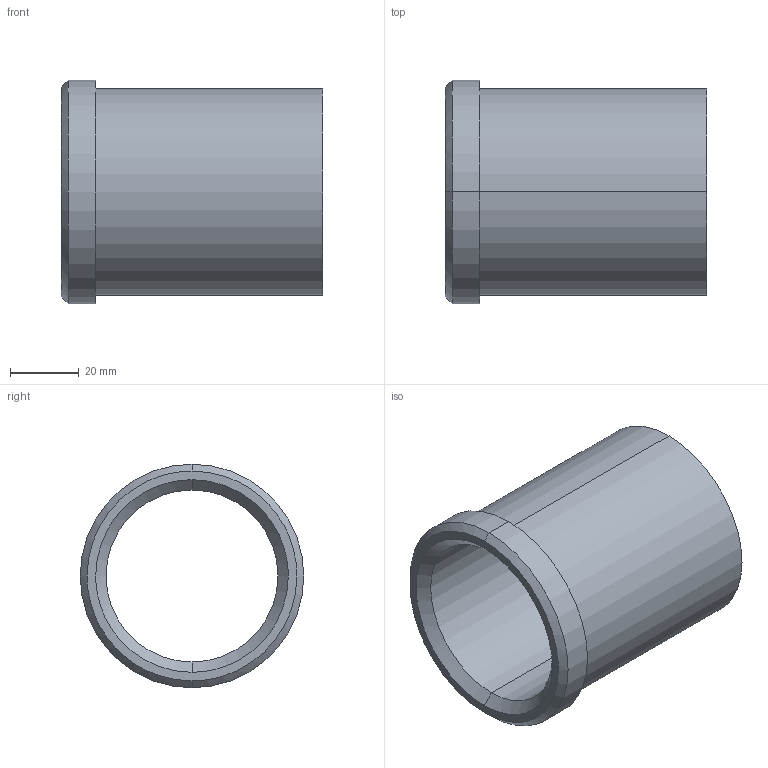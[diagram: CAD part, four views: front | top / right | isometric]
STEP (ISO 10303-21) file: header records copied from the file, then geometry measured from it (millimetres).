
FILE_DESCRIPTION(('CATIA V5 STEP Exchange'),'2;1');
FILE_NAME('C:\Users\Utente\Desktop\IO LAVORO\3D X SITO CF\X SITO\PLASTICA\353\353-50X76.stp','2021-05-14T13:24:16+00:00',('none'),('none'),'CATIA Version 5 Release 20 GA (IN-10)','CATIA V5 STEP AP203','none');
FILE_SCHEMA(('CONFIG_CONTROL_DESIGN'));
Length unit declared in the file: millimetre
Products named in the file (1): 353-50X76
Bounding box: 76 x 65 x 65 mm (x, y, z)
Volume: 69295.6 mm3; surface area: 28488.6 mm2
Topology: 1 solids, 1 shells, 15 faces, 48 edges, 36 vertices
Faces by surface type: cylinder 6, cone 4, plane 3, torus 2
Entity records: 680 total; most frequent: CARTESIAN_POINT 212, ORIENTED_EDGE 96, DIRECTION 70, EDGE_CURVE 48, AXIS2_PLACEMENT_3D 46, VERTEX_POINT 36, CIRCLE 30, EDGE_LOOP 18
